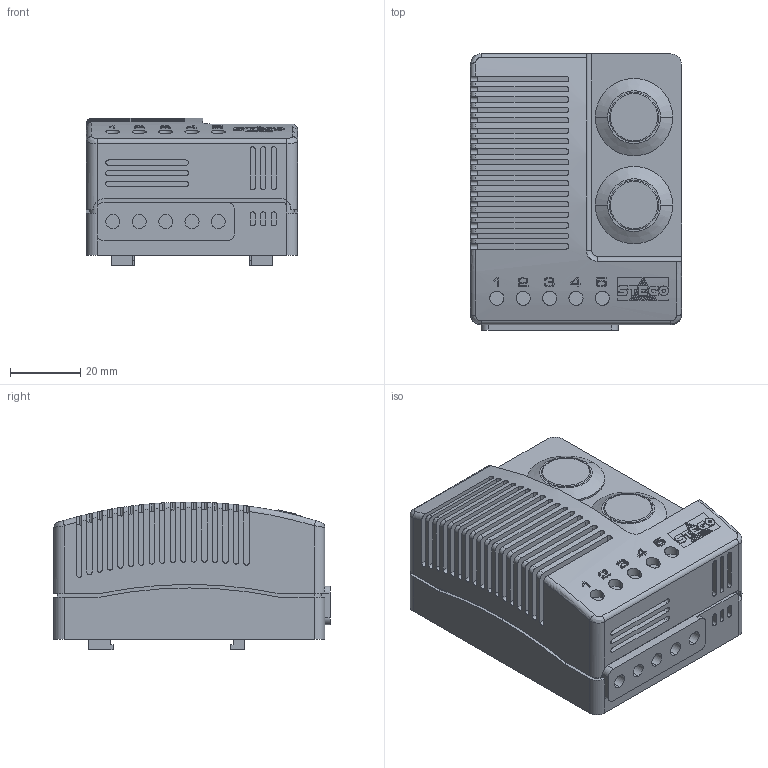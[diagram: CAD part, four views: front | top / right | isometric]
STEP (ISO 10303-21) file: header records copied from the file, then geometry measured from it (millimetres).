
FILE_DESCRIPTION (( 'STEP AP214' ), '1' );
FILE_NAME ('ETF_01230_eplan_10_2012.STEP', '2012-11-16T12:12:18', ( 'Nutzer' ), ( '' ), 'SwSTEP 2.0', 'SolidWorks 2012', '' );
FILE_SCHEMA (( 'AUTOMOTIVE_DESIGN' ));
Length unit declared in the file: millimetre
Products named in the file (1): ETF_01230_eplan_10_2012
Bounding box: 60 x 78.5 x 42 mm (x, y, z)
Volume: 157454.2 mm3; surface area: 24816.9 mm2
Topology: 7 solids, 7 shells, 648 faces, 1779 edges, 1178 vertices
Faces by surface type: plane 347, cylinder 158, bspline 115, torus 24, cone 4
Entity records: 24600 total; most frequent: CARTESIAN_POINT 8794, ORIENTED_EDGE 3558, DIRECTION 2773, EDGE_CURVE 1779, VERTEX_POINT 1178, VECTOR 1155, LINE 1155, AXIS2_PLACEMENT_3D 809
